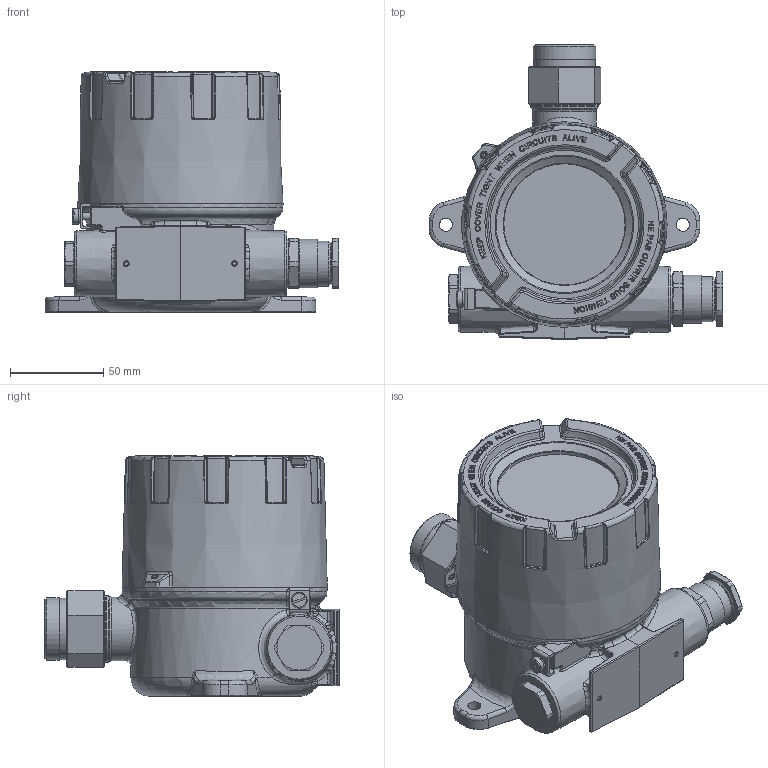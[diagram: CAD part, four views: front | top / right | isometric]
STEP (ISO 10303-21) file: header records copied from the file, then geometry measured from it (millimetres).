
FILE_DESCRIPTION(/* description */ (''),/* implementation_level */ '2;1');
FILE_NAME(/* name */ 'KEX.step',/* time_stamp */ '2026-06-29T12:45:37+03:00',/* author */ (''),/* organization */ (''),/* preprocessor_version */ 'ST-DEVELOPER v20.1',/* originating_system */ 'Autodesk Translation Framework v15.8.0.0',/* authorisation */ '');
FILE_SCHEMA (('AUTOMOTIVE_DESIGN { 1 0 10303 214 3 1 1 }'));
Products named in the file (21): 2026-06-23-10-09-19-147; 20A2F1RA; 757DM2; 2026-06-23-07-14-39-462; 2026-06-23-07-14-39-463; 2026-06-23-07-14-39-464; 2026-06-23-07-14-39-465; 2026-06-23-07-14-39-466; 2026-06-23-07-14-39-467; 2026-06-23-07-14-39-468; 2026-06-23-07-14-39-469; 2026-06-23-07-14-39-470; 2026-06-23-07-14-39-471; 2026-06-23-07-14-39-472; 2026-06-23-07-14-39-473; 2026-06-23-07-14-39-474; 2026-06-23-07-14-39-475; 2026-06-23-10-21-11-041; 1; 2; 3
Assembly tree (20 placements, depth 4):
  2026-06-23-10-09-19-147
    20A2F1RA
    757DM2
    2026-06-23-07-14-39-462
      2026-06-23-07-14-39-463
      2026-06-23-07-14-39-464
      2026-06-23-07-14-39-465
      2026-06-23-07-14-39-466
      2026-06-23-07-14-39-467
      2026-06-23-07-14-39-468
      2026-06-23-07-14-39-469
        2026-06-23-07-14-39-470
        2026-06-23-07-14-39-471
        2026-06-23-07-14-39-472
      2026-06-23-07-14-39-473
      2026-06-23-07-14-39-474
      2026-06-23-07-14-39-475
    2026-06-23-10-21-11-041
      1
      2
      3
Bounding box: 157.4 x 158 x 128.8 mm (x, y, z)
Volume: 558840.2 mm3; surface area: 182077.5 mm2
Topology: 18 solids, 18 shells, 1906 faces, 4437 edges, 2642 vertices
Faces by surface type: plane 656, cylinder 565, bspline 478, torus 99, cone 90, sphere 18
Full cylindrical faces by diameter (mm): 0.75 x12, 2 x3, 2.459 x1, 2.6 x1, 3 x1, 3.242 x8, 3.5 x2, 3.9 x1, 4 x2, 4.1 x1, 4.134 x1, 4.5 x1, 4.9 x1, 5 x1, 5.1 x1, 6 x1, 7 x1, 7.28 x1, 8.28 x1, 8.4 x1, 13 x1, 14.1 x1, 15 x1, 17.92 x1, 17.971 x2, 18 x1, 18.376 x3, 19.9 x1, 20 x2, 21.5 x2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
Entity records: 82045 total; most frequent: CARTESIAN_POINT 41240, ORIENTED_EDGE 8786, DIRECTION 7717, EDGE_CURVE 4393, AXIS2_PLACEMENT_3D 2857, VERTEX_POINT 2640, EDGE_LOOP 2051, LINE 2003
